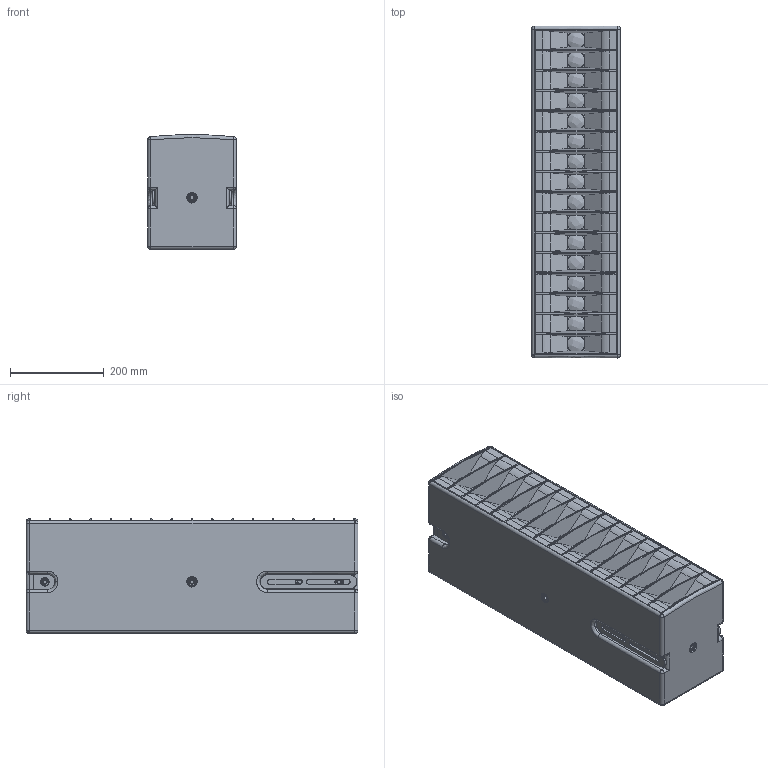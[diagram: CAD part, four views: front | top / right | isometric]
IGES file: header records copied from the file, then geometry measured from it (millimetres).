
Start section: SolidWorks IGES file using analytic representation for surfaces
Global section: file name: C:\Dokumente und Einstellungen\PC_Fabian\Desktop\G-Serie\Seeburg_GL16i.IGS; native system: SolidWorks 2009; preprocessor: SolidWorks 2009; author: PC_Fabian; date: 121015.152458; units: millimetre
Bounding box: 189 x 708 x 245 mm (x, y, z)
Surface area: 1772714.9 mm2 (no closed solid volume)
Topology: 0 solids, 0 shells, 1015 faces, 14163 edges, 14155 vertices
Faces by surface type: bspline 521, revolution 494
